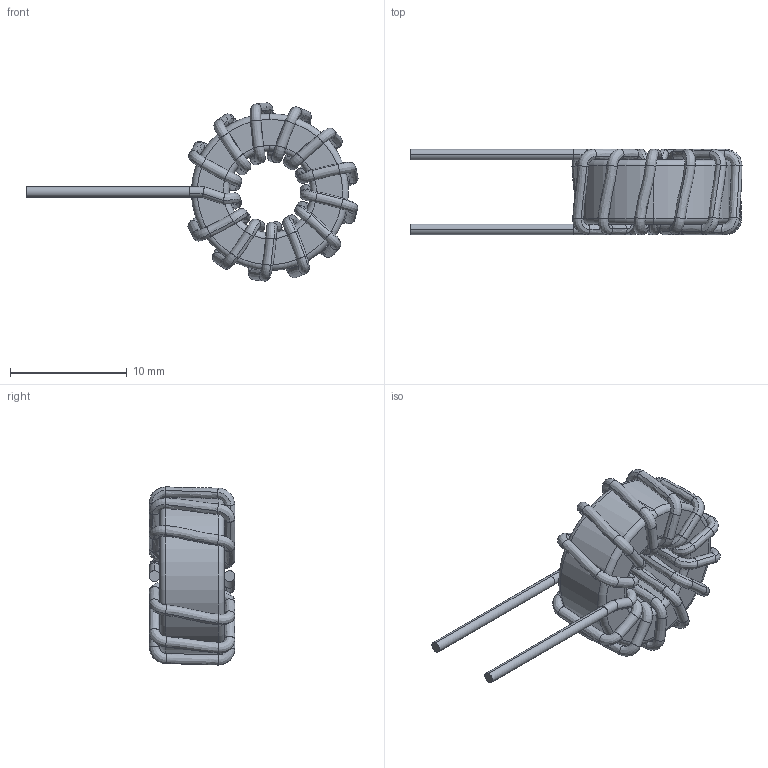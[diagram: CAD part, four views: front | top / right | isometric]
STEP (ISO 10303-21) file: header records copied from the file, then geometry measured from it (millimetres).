
FILE_DESCRIPTION (( 'STEP AP214' ), '1' );
FILE_NAME ('HF127-100M-8AV REV.C.STEP', '2018-11-26T03:40:47', ( '' ), ( '' ), 'SwSTEP 2.0', 'SolidWorks 2015', '' );
FILE_SCHEMA (( 'AUTOMOTIVE_DESIGN' ));
Length unit declared in the file: millimetre
Products named in the file (1): HF127-100M-8AV REV.C
Bounding box: 28.43 x 7.33 x 15.26 mm (x, y, z)
Volume: 745.7 mm3; surface area: 1330.8 mm2
Topology: 4 solids, 4 shells, 230 faces, 456 edges, 234 vertices
Faces by surface type: bspline 202, cylinder 12, plane 8, torus 8
Entity records: 21309 total; most frequent: CARTESIAN_POINT 15117, ORIENTED_EDGE 912, DIRECTION 538, EDGE_CURVE 456, AXIS2_PLACEMENT_3D 263, UNCERTAINTY_MEASURE_WITH_UNIT 236, COLOUR_RGB 235, PRESENTATION_STYLE_ASSIGNMENT 235
